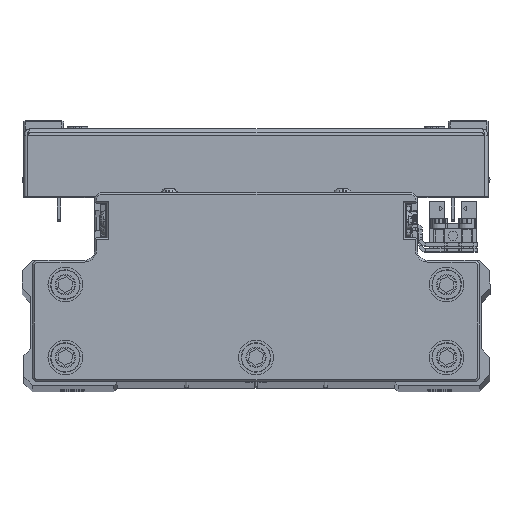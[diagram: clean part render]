
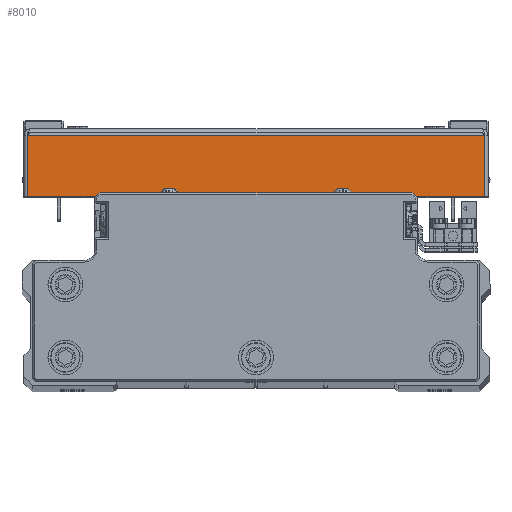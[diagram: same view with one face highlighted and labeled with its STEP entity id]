
A CAD part, top view. The second image highlights one B-rep face of the part: STEP entity #8010.
In plain terms, the highlighted planar face has unit normal (0, 0, 1) as drawn and (1, 0, 0) by its records, which use the part's own axes.
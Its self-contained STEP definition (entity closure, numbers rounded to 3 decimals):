
#947 = DIRECTION ( 'NONE',  ( 0., 0., 1. ) ) ;
#1837 = LINE ( 'NONE', #15660, #11834 ) ;
#5279 = ORIENTED_EDGE ( 'NONE', *, *, #8516, .T. ) ;
#5917 = VECTOR ( 'NONE', #23192, 1000. ) ;
#8010 = ADVANCED_FACE ( 'NONE', ( #42917 ), #11874, .F. ) ;
#8469 = DIRECTION ( 'NONE',  ( 0., -1., 0. ) ) ;
#8516 = EDGE_CURVE ( 'NONE', #26228, #27918, #30207, .T. ) ;
#9366 = CARTESIAN_POINT ( 'NONE',  ( 100., 0., 65.929 ) ) ;
#11834 = VECTOR ( 'NONE', #29468, 1000. ) ;
#11874 = PLANE ( 'NONE',  #42519 ) ;
#13000 = DIRECTION ( 'NONE',  ( 0., 1., 0. ) ) ;
#15660 = CARTESIAN_POINT ( 'NONE',  ( 100., 18.5, 0. ) ) ;
#16058 = CARTESIAN_POINT ( 'NONE',  ( 100., 18.5, -65.929 ) ) ;
#18166 = EDGE_CURVE ( 'NONE', #28781, #23273, #40397, .T. ) ;
#18183 = LINE ( 'NONE', #31986, #44772 ) ;
#19574 = ORIENTED_EDGE ( 'NONE', *, *, #27258, .F. ) ;
#19962 = CARTESIAN_POINT ( 'NONE',  ( 100., 1., 65.929 ) ) ;
#23192 = DIRECTION ( 'NONE',  ( 0., 1., 0. ) ) ;
#23273 = VERTEX_POINT ( 'NONE', #26422 ) ;
#25688 = CARTESIAN_POINT ( 'NONE',  ( 100., 0., 0. ) ) ;
#26228 = VERTEX_POINT ( 'NONE', #40787 ) ;
#26422 = CARTESIAN_POINT ( 'NONE',  ( 100., 18.5, 65.929 ) ) ;
#27258 = EDGE_CURVE ( 'NONE', #26228, #28781, #18183, .T. ) ;
#27918 = VERTEX_POINT ( 'NONE', #16058 ) ;
#28781 = VERTEX_POINT ( 'NONE', #19962 ) ;
#29468 = DIRECTION ( 'NONE',  ( 0., 0., 1. ) ) ;
#30207 = LINE ( 'NONE', #44048, #38202 ) ;
#30683 = EDGE_CURVE ( 'NONE', #27918, #23273, #1837, .T. ) ;
#31986 = CARTESIAN_POINT ( 'NONE',  ( 100., 1., 67. ) ) ;
#32903 = ORIENTED_EDGE ( 'NONE', *, *, #30683, .T. ) ;
#36498 = ORIENTED_EDGE ( 'NONE', *, *, #18166, .F. ) ;
#38202 = VECTOR ( 'NONE', #13000, 1000. ) ;
#39505 = DIRECTION ( 'NONE',  ( -1., 0., 0. ) ) ;
#39755 = EDGE_LOOP ( 'NONE', ( #19574, #5279, #32903, #36498 ) ) ;
#40397 = LINE ( 'NONE', #9366, #5917 ) ;
#40787 = CARTESIAN_POINT ( 'NONE',  ( 100., 1., -65.929 ) ) ;
#42519 = AXIS2_PLACEMENT_3D ( 'NONE', #25688, #39505, #8469 ) ;
#42917 = FACE_OUTER_BOUND ( 'NONE', #39755, .T. ) ;
#44048 = CARTESIAN_POINT ( 'NONE',  ( 100., 0., -65.929 ) ) ;
#44772 = VECTOR ( 'NONE', #947, 1000. ) ;
